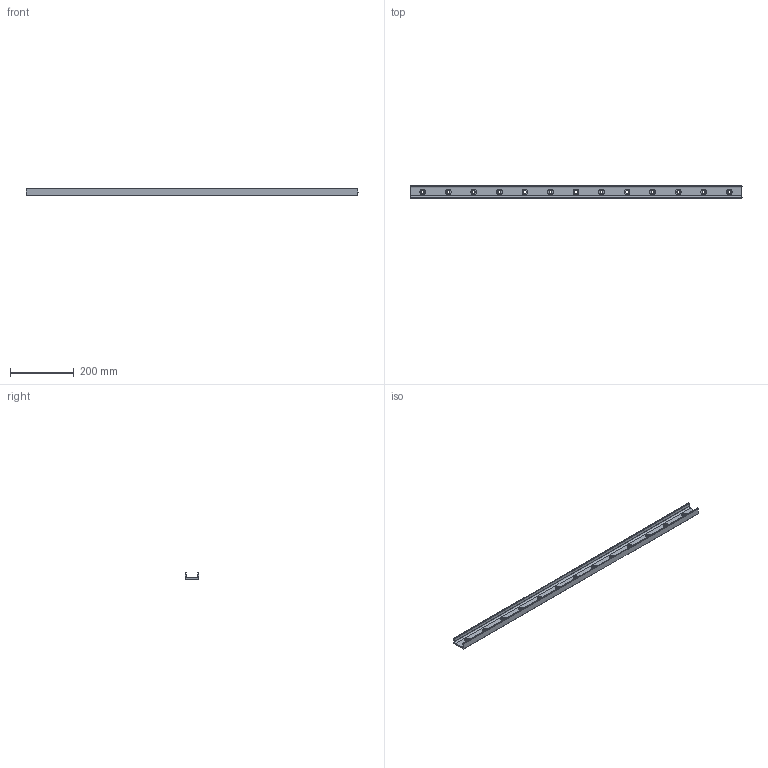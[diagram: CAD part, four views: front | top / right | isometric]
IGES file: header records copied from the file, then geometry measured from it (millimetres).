
Start section: SolidWorks IGES file using analytic representation for surfaces
Global section: file name: C:\Users\IanO\Desktop\43\L1943.ULC43_v2_20180121_IGES\L1943.ULC43-1040.igs; native system: SolidWorks 2017; preprocessor: SolidWorks 2017; author: IanO; date: 190121.084636; units: millimetre
Bounding box: 1040 x 43 x 21 mm (x, y, z)
Surface area: 163514.8 mm2 (no closed solid volume)
Topology: 0 solids, 0 shells, 91 faces, 2166 edges, 2166 vertices
Faces by surface type: revolution 65, bspline 26
